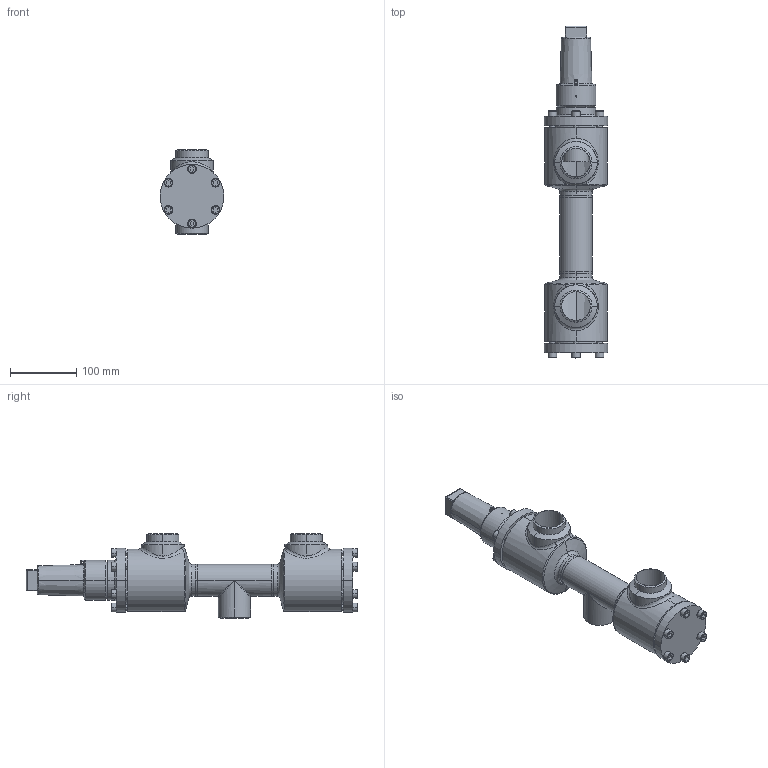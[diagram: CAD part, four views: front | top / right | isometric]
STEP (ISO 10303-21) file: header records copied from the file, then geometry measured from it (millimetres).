
FILE_DESCRIPTION (( 'STEP AP214' ), '1' );
FILE_NAME ('WVB23000D14-DN040_R1_PS40.STEP', '2010-09-08T09:15:38', ( 'Eckhard Grams' ), ( 'AWP Kälte Klima Armaturen GmbH' ), 'SwSTEP 2.0', 'SolidWorks 2002296', '' );
FILE_SCHEMA (( 'AUTOMOTIVE_DESIGN' ));
Length unit declared in the file: millimetre
Products named in the file (12): WVB23000D14-DN040_R1_PS40; WVB-R23000E15_Deck+Schr-DN40-50_Standard; Deckel23000E15-DN40-50_Standard; Geh,kpl23000E14-DN040_R1_PS40_Standard; bead23000-14-2_Standard; bead23000-14-1_Standard; T-Stück DIN2615_DN 40; Gehäuse23000E14-DN040_R1_PS40_Standard; AVB16300E15_Deck+Schr-DN40-50_Standard; Deckel16300E15-DN40-50_Standard; Zylinderschraube-DIN912_M 8x  25; Kappe 16402-15_DN40-65 (M52x3)_Standard
Assembly tree (23 placements, depth 3):
  WVB23000D14-DN040_R1_PS40
    WVB-R23000E15_Deck+Schr-DN40-50_Standard
      Zylinderschraube-DIN912_M 8x  25  x6
      Deckel23000E15-DN40-50_Standard
    Kappe 16402-15_DN40-65 (M52x3)_Standard
    AVB16300E15_Deck+Schr-DN40-50_Standard
      Zylinderschraube-DIN912_M 8x  25  x6
      Deckel16300E15-DN40-50_Standard
    Geh,kpl23000E14-DN040_R1_PS40_Standard
      Gehäuse23000E14-DN040_R1_PS40_Standard  x2
      T-Stück DIN2615_DN 40
      bead23000-14-2_Standard
      bead23000-14-1_Standard
Bounding box: 96 x 500 x 127 mm (x, y, z)
Volume: 1198977.9 mm3; surface area: 285727.5 mm2
Topology: 20 solids, 20 shells, 493 faces, 1099 edges, 679 vertices
Faces by surface type: cylinder 176, plane 173, cone 71, torus 49, bspline 24
Entity records: 28733 total; most frequent: CARTESIAN_POINT 21956, DIRECTION 1314, ORIENTED_EDGE 1192, EDGE_CURVE 596, AXIS2_PLACEMENT_3D 557, VERTEX_POINT 368, EDGE_LOOP 316, CIRCLE 290
